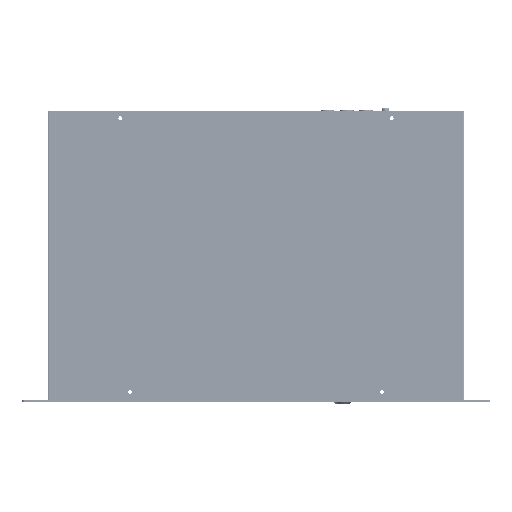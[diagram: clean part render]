
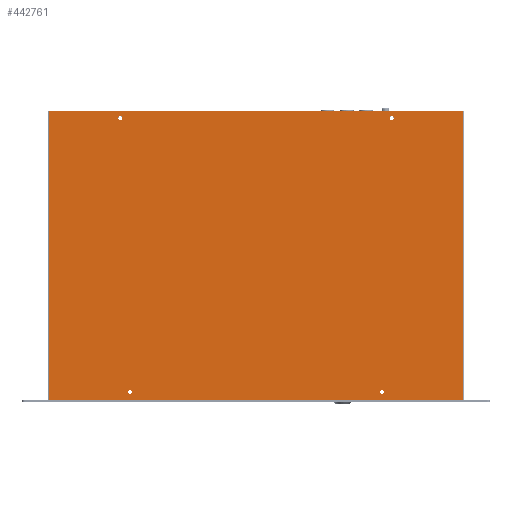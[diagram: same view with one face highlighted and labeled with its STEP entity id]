
A CAD part, top view. The second image highlights one B-rep face of the part: STEP entity #442761.
In plain terms, the highlighted planar face has unit normal (0, 0, 1).
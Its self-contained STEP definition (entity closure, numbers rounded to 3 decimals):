
#5534 = DIRECTION ( 'NONE',  ( 0., 0., -1. ) ) ;
#8945 = DIRECTION ( 'NONE',  ( 1., 0., 0. ) ) ;
#12767 = DIRECTION ( 'NONE',  ( -1., 0., 0. ) ) ;
#13036 = EDGE_LOOP ( 'NONE', ( #109557, #251050 ) ) ;
#14291 = LINE ( 'NONE', #197045, #293739 ) ;
#18843 = CARTESIAN_POINT ( 'NONE',  ( -259.072, -140.657, 453.1 ) ) ;
#20770 = EDGE_CURVE ( 'NONE', #191842, #344404, #429952, .T. ) ;
#30592 = CIRCLE ( 'NONE', #595134, 2. ) ;
#32163 = EDGE_LOOP ( 'NONE', ( #422419, #557500 ) ) ;
#39126 = DIRECTION ( 'NONE',  ( 0., -1., 0. ) ) ;
#39408 = DIRECTION ( 'NONE',  ( 1., 0., 0. ) ) ;
#46271 = ORIENTED_EDGE ( 'NONE', *, *, #244769, .T. ) ;
#60426 = EDGE_CURVE ( 'NONE', #316567, #264103, #266757, .T. ) ;
#65234 = DIRECTION ( 'NONE',  ( 1., 0., 0. ) ) ;
#66350 = CARTESIAN_POINT ( 'NONE',  ( -257.872, 157.343, 453.1 ) ) ;
#80427 = CARTESIAN_POINT ( 'NONE',  ( 95.928, 150.343, 453.1 ) ) ;
#84119 = AXIS2_PLACEMENT_3D ( 'NONE', #80427, #177840, #549559 ) ;
#87192 = CIRCLE ( 'NONE', #349688, 2. ) ;
#87772 = FACE_OUTER_BOUND ( 'NONE', #510524, .T. ) ;
#89835 = VERTEX_POINT ( 'NONE', #490788 ) ;
#93768 = FACE_BOUND ( 'NONE', #32163, .T. ) ;
#103227 = DIRECTION ( 'NONE',  ( 0., 0., 1. ) ) ;
#107459 = VERTEX_POINT ( 'NONE', #381806 ) ;
#109557 = ORIENTED_EDGE ( 'NONE', *, *, #332433, .F. ) ;
#109665 = EDGE_CURVE ( 'NONE', #89835, #323336, #335547, .T. ) ;
#118906 = VERTEX_POINT ( 'NONE', #369959 ) ;
#126761 = VECTOR ( 'NONE', #484888, 1000. ) ;
#146259 = CARTESIAN_POINT ( 'NONE',  ( 169.728, 157.343, 453.1 ) ) ;
#147590 = CARTESIAN_POINT ( 'NONE',  ( 95.928, 150.343, 453.1 ) ) ;
#147792 = EDGE_CURVE ( 'NONE', #341602, #107459, #87192, .T. ) ;
#160126 = AXIS2_PLACEMENT_3D ( 'NONE', #422683, #5534, #39126 ) ;
#162783 = AXIS2_PLACEMENT_3D ( 'NONE', #456631, #590963, #39408 ) ;
#166168 = CIRCLE ( 'NONE', #457892, 2. ) ;
#177840 = DIRECTION ( 'NONE',  ( 0., 0., 1. ) ) ;
#185285 = FACE_BOUND ( 'NONE', #440372, .T. ) ;
#191842 = VERTEX_POINT ( 'NONE', #146259 ) ;
#193492 = DIRECTION ( 'NONE',  ( 1., 0., 0. ) ) ;
#197045 = CARTESIAN_POINT ( 'NONE',  ( -257.872, 8.343, 453.1 ) ) ;
#222191 = EDGE_CURVE ( 'NONE', #107459, #341602, #230847, .T. ) ;
#226142 = CARTESIAN_POINT ( 'NONE',  ( 169.728, 8.343, 453.1 ) ) ;
#226590 = CARTESIAN_POINT ( 'NONE',  ( 93.928, 150.343, 453.1 ) ) ;
#230847 = CIRCLE ( 'NONE', #162783, 2. ) ;
#236726 = PLANE ( 'NONE',  #160126 ) ;
#244758 = CARTESIAN_POINT ( 'NONE',  ( -182.072, 150.343, 453.1 ) ) ;
#244769 = EDGE_CURVE ( 'NONE', #344404, #89835, #14291, .T. ) ;
#249201 = CARTESIAN_POINT ( 'NONE',  ( -172.072, -132.357, 453.1 ) ) ;
#251050 = ORIENTED_EDGE ( 'NONE', *, *, #583729, .F. ) ;
#256474 = ORIENTED_EDGE ( 'NONE', *, *, #440838, .F. ) ;
#257756 = DIRECTION ( 'NONE',  ( 1., 0., 0. ) ) ;
#264103 = VERTEX_POINT ( 'NONE', #226590 ) ;
#266147 = VECTOR ( 'NONE', #12767, 1000. ) ;
#266757 = CIRCLE ( 'NONE', #334646, 2. ) ;
#267917 = EDGE_CURVE ( 'NONE', #323336, #191842, #463855, .T. ) ;
#277664 = AXIS2_PLACEMENT_3D ( 'NONE', #438130, #103227, #8945 ) ;
#285136 = ORIENTED_EDGE ( 'NONE', *, *, #222191, .F. ) ;
#293739 = VECTOR ( 'NONE', #514018, 1000. ) ;
#306742 = CIRCLE ( 'NONE', #277664, 2. ) ;
#307223 = DIRECTION ( 'NONE',  ( 0., 0., 1. ) ) ;
#307647 = DIRECTION ( 'NONE',  ( 0., 0., 1. ) ) ;
#316567 = VERTEX_POINT ( 'NONE', #587893 ) ;
#320075 = ORIENTED_EDGE ( 'NONE', *, *, #267917, .T. ) ;
#323336 = VERTEX_POINT ( 'NONE', #435372 ) ;
#332433 = EDGE_CURVE ( 'NONE', #357688, #118906, #475785, .T. ) ;
#334646 = AXIS2_PLACEMENT_3D ( 'NONE', #147590, #602484, #65234 ) ;
#335547 = LINE ( 'NONE', #18843, #126761 ) ;
#341602 = VERTEX_POINT ( 'NONE', #453802 ) ;
#344404 = VERTEX_POINT ( 'NONE', #66350 ) ;
#349688 = AXIS2_PLACEMENT_3D ( 'NONE', #529241, #583982, #257756 ) ;
#353330 = VERTEX_POINT ( 'NONE', #579095 ) ;
#357688 = VERTEX_POINT ( 'NONE', #249201 ) ;
#359038 = AXIS2_PLACEMENT_3D ( 'NONE', #519331, #427799, #193492 ) ;
#368910 = ORIENTED_EDGE ( 'NONE', *, *, #421365, .F. ) ;
#369336 = DIRECTION ( 'NONE',  ( 0., 1., 0. ) ) ;
#369959 = CARTESIAN_POINT ( 'NONE',  ( -176.072, -132.357, 453.1 ) ) ;
#373922 = FACE_BOUND ( 'NONE', #410462, .T. ) ;
#381806 = CARTESIAN_POINT ( 'NONE',  ( 83.928, -132.357, 453.1 ) ) ;
#386832 = VECTOR ( 'NONE', #369336, 1000. ) ;
#393459 = VERTEX_POINT ( 'NONE', #244758 ) ;
#401667 = DIRECTION ( 'NONE',  ( 1., 0., 0. ) ) ;
#410462 = EDGE_LOOP ( 'NONE', ( #368910, #256474 ) ) ;
#413668 = FACE_BOUND ( 'NONE', #13036, .T. ) ;
#421365 = EDGE_CURVE ( 'NONE', #393459, #353330, #306742, .T. ) ;
#422419 = ORIENTED_EDGE ( 'NONE', *, *, #60426, .F. ) ;
#422683 = CARTESIAN_POINT ( 'NONE',  ( -44.072, 8.343, 453.1 ) ) ;
#427799 = DIRECTION ( 'NONE',  ( 0., 0., 1. ) ) ;
#429952 = LINE ( 'NONE', #475737, #266147 ) ;
#435372 = CARTESIAN_POINT ( 'NONE',  ( 169.728, -140.657, 453.1 ) ) ;
#438130 = CARTESIAN_POINT ( 'NONE',  ( -184.072, 150.343, 453.1 ) ) ;
#440372 = EDGE_LOOP ( 'NONE', ( #571126, #285136 ) ) ;
#440838 = EDGE_CURVE ( 'NONE', #353330, #393459, #30592, .T. ) ;
#442761 = ADVANCED_FACE ( 'NONE', ( #93768, #373922, #413668, #185285, #87772 ), #236726, .F. ) ;
#453802 = CARTESIAN_POINT ( 'NONE',  ( 87.928, -132.357, 453.1 ) ) ;
#456631 = CARTESIAN_POINT ( 'NONE',  ( 85.928, -132.357, 453.1 ) ) ;
#457892 = AXIS2_PLACEMENT_3D ( 'NONE', #493276, #307223, #401667 ) ;
#463855 = LINE ( 'NONE', #226142, #386832 ) ;
#475737 = CARTESIAN_POINT ( 'NONE',  ( -259.072, 157.343, 453.1 ) ) ;
#475785 = CIRCLE ( 'NONE', #359038, 2. ) ;
#484888 = DIRECTION ( 'NONE',  ( 1., 0., 0. ) ) ;
#490788 = CARTESIAN_POINT ( 'NONE',  ( -257.872, -140.657, 453.1 ) ) ;
#491724 = EDGE_CURVE ( 'NONE', #264103, #316567, #529550, .T. ) ;
#493276 = CARTESIAN_POINT ( 'NONE',  ( -174.072, -132.357, 453.1 ) ) ;
#493668 = DIRECTION ( 'NONE',  ( 1., 0., 0. ) ) ;
#510524 = EDGE_LOOP ( 'NONE', ( #590358, #320075, #551313, #46271 ) ) ;
#514018 = DIRECTION ( 'NONE',  ( 0., -1., 0. ) ) ;
#519331 = CARTESIAN_POINT ( 'NONE',  ( -174.072, -132.357, 453.1 ) ) ;
#529241 = CARTESIAN_POINT ( 'NONE',  ( 85.928, -132.357, 453.1 ) ) ;
#529550 = CIRCLE ( 'NONE', #84119, 2. ) ;
#549559 = DIRECTION ( 'NONE',  ( 1., 0., 0. ) ) ;
#551313 = ORIENTED_EDGE ( 'NONE', *, *, #20770, .T. ) ;
#557500 = ORIENTED_EDGE ( 'NONE', *, *, #491724, .F. ) ;
#571126 = ORIENTED_EDGE ( 'NONE', *, *, #147792, .F. ) ;
#579095 = CARTESIAN_POINT ( 'NONE',  ( -186.072, 150.343, 453.1 ) ) ;
#583729 = EDGE_CURVE ( 'NONE', #118906, #357688, #166168, .T. ) ;
#583982 = DIRECTION ( 'NONE',  ( 0., 0., 1. ) ) ;
#587893 = CARTESIAN_POINT ( 'NONE',  ( 97.928, 150.343, 453.1 ) ) ;
#588131 = CARTESIAN_POINT ( 'NONE',  ( -184.072, 150.343, 453.1 ) ) ;
#590358 = ORIENTED_EDGE ( 'NONE', *, *, #109665, .T. ) ;
#590963 = DIRECTION ( 'NONE',  ( 0., 0., 1. ) ) ;
#595134 = AXIS2_PLACEMENT_3D ( 'NONE', #588131, #307647, #493668 ) ;
#602484 = DIRECTION ( 'NONE',  ( 0., 0., 1. ) ) ;
